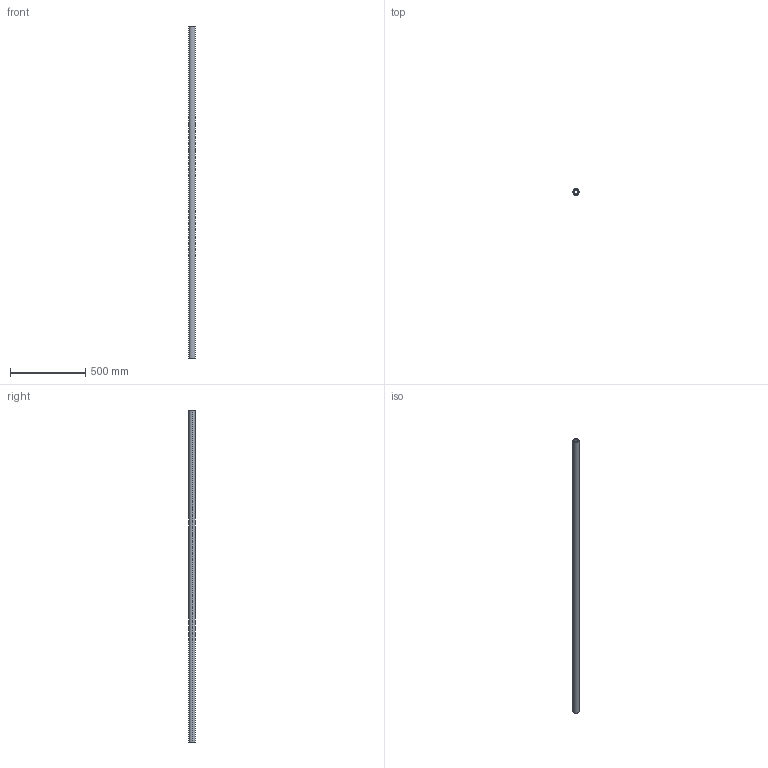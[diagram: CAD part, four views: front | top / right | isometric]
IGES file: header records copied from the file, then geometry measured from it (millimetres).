
Start section: SolidWorks IGES file using analytic representation for surfaces
Global section: file name: C:\Users\IanO\Desktop\L1771_v2\L1771.40_v2\L1771.40_v2_20230705_IGES\L1771.40-2200.igs; native system: SolidWorks 2019; preprocessor: SolidWorks 2019; author: IanO; date: 230705.161109; units: millimetre
Bounding box: 40 x 40 x 2200 mm (x, y, z)
Surface area: 471264 mm2 (no closed solid volume)
Topology: 0 solids, 0 shells, 6 faces, 272 edges, 272 vertices
Faces by surface type: revolution 4, bspline 2
